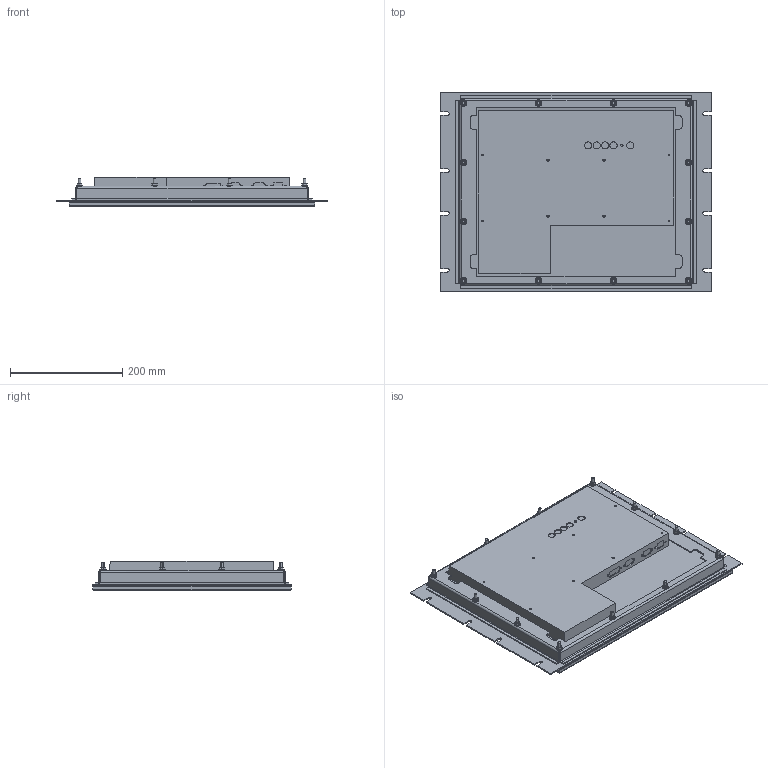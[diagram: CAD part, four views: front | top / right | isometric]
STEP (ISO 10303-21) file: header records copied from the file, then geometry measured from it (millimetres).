
FILE_DESCRIPTION (( 'STEP AP214' ), '1' );
FILE_NAME ('17 inch Panel Mount Monitor, HIS-RL17-xxxH.STEP', '2021-03-18T17:22:58', ( '' ), ( '' ), 'SwSTEP 2.0', 'SolidWorks 2020', '' );
FILE_SCHEMA (( 'AUTOMOTIVE_DESIGN' ));
Length unit declared in the file: millimetre
Products named in the file (5): Rack Adapter, HIS-RL17; M5 Nut, 30008_M5 Nut - 30008; 17 inch Panel Mount Monitor, HIS-RL17-xxxH; Collar, 10005; Monitor, 17H
Assembly tree (15 placements, depth 2):
  17 inch Panel Mount Monitor, HIS-RL17-xxxH
    Monitor, 17H
    Collar, 10005
    M5 Nut, 30008_M5 Nut - 30008  x12
    Rack Adapter, HIS-RL17
Bounding box: 482.6 x 354.81 x 52.12 mm (x, y, z)
Volume: 5597874.2 mm3; surface area: 1047094.5 mm2
Topology: 17 solids, 17 shells, 786 faces, 1821 edges, 1098 vertices
Faces by surface type: plane 315, cylinder 207, cone 160, bspline 80, torus 24
Entity records: 13627 total; most frequent: CARTESIAN_POINT 2965, DIRECTION 2175, ORIENTED_EDGE 2070, EDGE_CURVE 1035, AXIS2_PLACEMENT_3D 754, LINE 667, VECTOR 667, VERTEX_POINT 658
